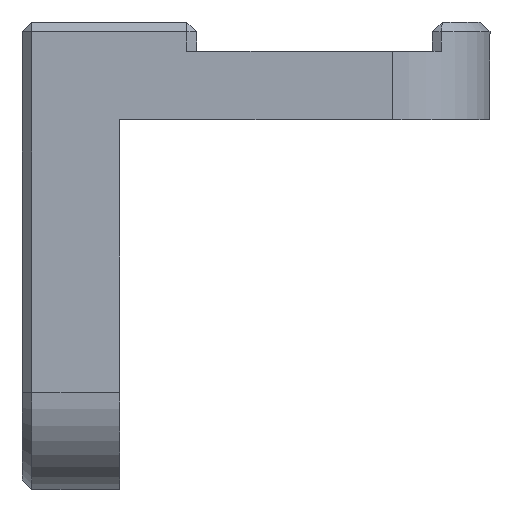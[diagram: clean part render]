
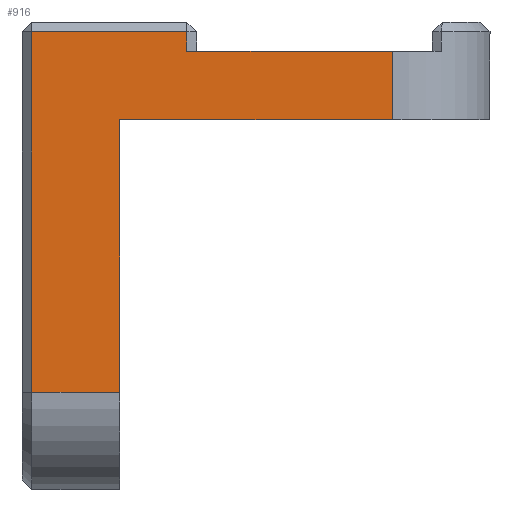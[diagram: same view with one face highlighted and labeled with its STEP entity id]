
A CAD part, left-side view. The second image highlights one B-rep face of the part: STEP entity #916.
In plain terms, the highlighted planar face has unit normal (-1, 0, 0).
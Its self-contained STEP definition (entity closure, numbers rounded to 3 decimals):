
#75=PLANE('',#1014);
#122=FACE_OUTER_BOUND('',#185,.T.);
#185=EDGE_LOOP('',(#793,#794,#795,#796,#797,#798,#799,#800));
#219=LINE('',#1348,#304);
#244=LINE('',#1429,#329);
#252=LINE('',#1448,#337);
#271=LINE('',#1494,#356);
#278=LINE('',#1504,#363);
#283=LINE('',#1525,#368);
#284=LINE('',#1527,#369);
#285=LINE('',#1528,#370);
#304=VECTOR('',#1064,10.);
#329=VECTOR('',#1155,10.);
#337=VECTOR('',#1173,10.);
#356=VECTOR('',#1218,10.);
#363=VECTOR('',#1231,10.);
#368=VECTOR('',#1254,10.);
#369=VECTOR('',#1255,10.);
#370=VECTOR('',#1256,10.);
#422=VERTEX_POINT('',#1330);
#430=VERTEX_POINT('',#1346);
#453=VERTEX_POINT('',#1428);
#455=VERTEX_POINT('',#1434);
#457=VERTEX_POINT('',#1440);
#472=VERTEX_POINT('',#1488);
#480=VERTEX_POINT('',#1524);
#481=VERTEX_POINT('',#1526);
#505=EDGE_CURVE('',#422,#430,#219,.T.);
#546=EDGE_CURVE('',#422,#453,#244,.T.);
#555=EDGE_CURVE('',#457,#455,#252,.T.);
#578=EDGE_CURVE('',#472,#457,#271,.T.);
#585=EDGE_CURVE('',#455,#430,#278,.T.);
#593=EDGE_CURVE('',#480,#472,#283,.T.);
#594=EDGE_CURVE('',#481,#480,#284,.T.);
#595=EDGE_CURVE('',#481,#453,#285,.T.);
#793=ORIENTED_EDGE('',*,*,#578,.F.);
#794=ORIENTED_EDGE('',*,*,#593,.F.);
#795=ORIENTED_EDGE('',*,*,#594,.F.);
#796=ORIENTED_EDGE('',*,*,#595,.T.);
#797=ORIENTED_EDGE('',*,*,#546,.F.);
#798=ORIENTED_EDGE('',*,*,#505,.T.);
#799=ORIENTED_EDGE('',*,*,#585,.F.);
#800=ORIENTED_EDGE('',*,*,#555,.F.);
#916=ADVANCED_FACE('',(#122),#75,.T.);
#1014=AXIS2_PLACEMENT_3D('',#1523,#1252,#1253);
#1064=DIRECTION('',(0.,1.,0.));
#1155=DIRECTION('',(0.,0.,-1.));
#1173=DIRECTION('',(0.,-1.,0.));
#1218=DIRECTION('',(0.,0.,1.));
#1231=DIRECTION('',(0.,0.,-1.));
#1252=DIRECTION('center_axis',(-1.,0.,0.));
#1253=DIRECTION('ref_axis',(0.,0.,
-1.));
#1254=DIRECTION('',(0.,1.,0.));
#1255=DIRECTION('',(0.,0.,-1.));
#1256=DIRECTION('',(0.,-1.,0.));
#1330=CARTESIAN_POINT('',(-45.,1.5,121.3));
#1346=CARTESIAN_POINT('',(-45.,12.05,121.3));
#1348=CARTESIAN_POINT('',(-45.,10.5,121.3));
#1428=CARTESIAN_POINT('',(-45.,1.5,117.8));
#1429=CARTESIAN_POINT('',(-45.,1.5,121.55));
#1434=CARTESIAN_POINT('',(-45.,12.05,122.3));
#1440=CARTESIAN_POINT('',(-45.,20.,122.3));
#1448=CARTESIAN_POINT('',(-45.,15.5,122.3));
#1488=CARTESIAN_POINT('',(-45.,20.,103.8));
#1494=CARTESIAN_POINT('',(-45.,20.,116.8));
#1504=CARTESIAN_POINT('',(-45.,12.05,122.8));
#1523=CARTESIAN_POINT('Origin',(-45.,15.5,122.8));
#1524=CARTESIAN_POINT('',(-45.,15.5,103.8));
#1525=CARTESIAN_POINT('',(-45.,15.5,103.8));
#1526=CARTESIAN_POINT('',(-45.,15.5,117.8));
#1527=CARTESIAN_POINT('',(-45.,15.5,122.8));
#1528=CARTESIAN_POINT('',(-45.,15.5,117.8));
